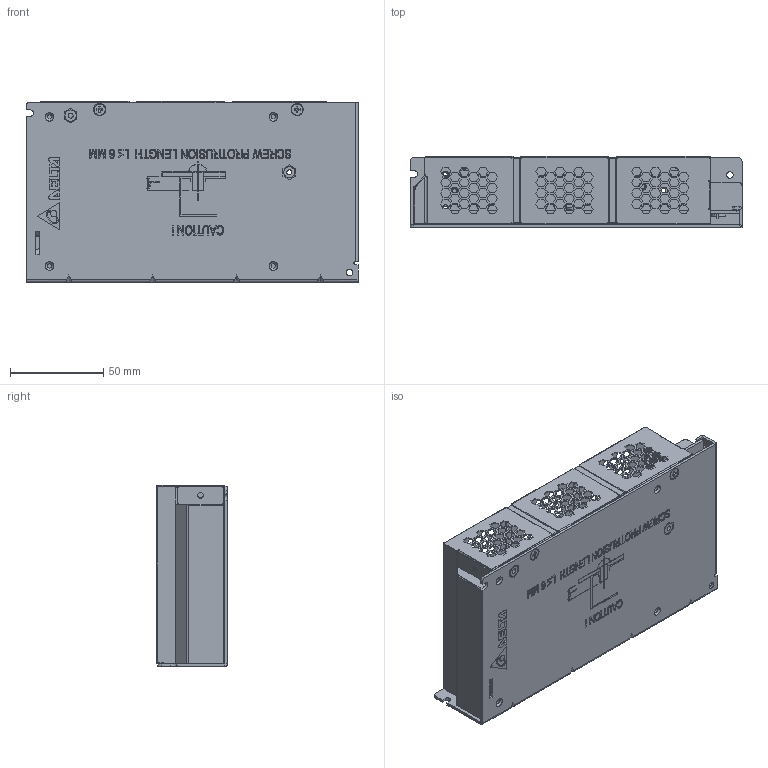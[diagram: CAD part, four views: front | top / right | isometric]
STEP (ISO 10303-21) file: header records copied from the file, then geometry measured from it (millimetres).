
FILE_DESCRIPTION((''),'2;1');
FILE_NAME('PMC-12V150W1BA_ASM','2012-04-20T',('Manop.Pr'),(''),'PRO/ENGINEER BY PARAMETRIC TECHNOLOGY CORPORATION, 2010180','PRO/ENGINEER BY PARAMETRIC TECHNOLOGY CORPORATION, 2010180','');
FILE_SCHEMA(('CONFIG_CONTROL_DESIGN','SHAPE_APPEARANCE_LAYERS_GROUPS'));
Products named in the file (17): 330309620101; 330309620101_A_STUD; 330309620101_ASM; 331606170101; 326203860203; 2958049602_PWB; 307049757W_A_BODY; 307049757W_A_SCREW; 307049757W_ASM; EE_VR550; EE_LED350; ASSY_PWB_ASM; 3100001000; 3100000800; 3100000400; 3268095800; PMC-12V150W1BA_ASM
Assembly tree (26 placements, depth 4):
  PMC-12V150W1BA_ASM
    330309620101_ASM
      330309620101
      330309620101_A_STUD  x2
    331606170101
    326203860203
    ASSY_PWB_ASM
      2958049602_PWB
      307049757W_ASM
        307049757W_A_BODY
        307049757W_A_SCREW  x7
      EE_VR550
      EE_LED350
    3100001000
    3100000800
    3100000400  x4
    3268095800
Bounding box: 178 x 38.08 x 97.05 mm (x, y, z)
Volume: 84589.2 mm3; surface area: 144658.5 mm2
Topology: 23 solids, 23 shells, 6547 faces, 17907 edges, 11160 vertices
Faces by surface type: plane 4885, cylinder 610, bspline 468, extrusion 412, cone 142, torus 28, sphere 2
Entity records: 241260 total; most frequent: CARTESIAN_POINT 45145, ORIENTED_EDGE 31830, DIRECTION 26255, PRESENTATION_STYLE_ASSIGNMENT 16198, STYLED_ITEM 15930, CURVE_STYLE 15915, EDGE_CURVE 15915, VECTOR 14197
